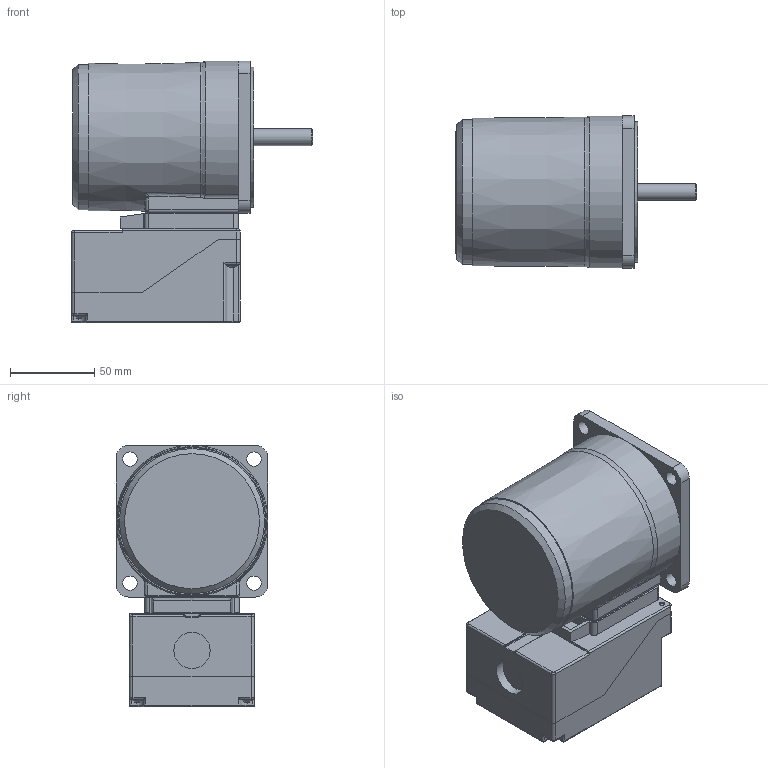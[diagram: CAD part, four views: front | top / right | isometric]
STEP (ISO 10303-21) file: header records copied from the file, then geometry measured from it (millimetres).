
FILE_DESCRIPTION(/* description */ (''),/* implementation_level */ '2;1');
FILE_NAME(/* name */ 'E:\도면작업\2016\0704) 미주향 SG 도면\3D MOTOR\TERMINAL BOX TYPE\INDUCTION TERMINAL BOX\SG9I40S_-T2.stp',/* time_stamp */ '2017-01-23T18:44:06+09:00',/* author */ ('jy-jung'),/* organization */ (''),/* preprocessor_version */ 'ST-DEVELOPER v15.6',/* originating_system */ 'Autodesk Inventor 2015',/* authorisation */ '');
FILE_SCHEMA (('AUTOMOTIVE_DESIGN { 1 0 10303 214 3 1 1 }'));
Length unit declared in the file: millimetre
Products named in the file (1): 부품1
Bounding box: 142.9 x 90 x 155 mm (x, y, z)
Volume: 789906.8 mm3; surface area: 130411.3 mm2
Topology: 1 solids, 5 shells, 841 faces, 2233 edges, 1424 vertices
Faces by surface type: plane 437, cylinder 291, bspline 51, torus 30, cone 20, sphere 12
Full cylindrical faces by diameter (mm): 2.5 x4, 3 x4, 3.2 x3, 3.4 x1, 4.2 x1, 4.5 x8, 5.5 x8, 6.9 x4, 8.5 x4, 10 x1, 21.5 x1, 40 x1, 83 x1, 86 x1
Entity records: 28121 total; most frequent: CARTESIAN_POINT 6704, DIRECTION 4258, ORIENTED_EDGE 4236, EDGE_CURVE 2118, AXIS2_PLACEMENT_3D 1499, VERTEX_POINT 1407, LINE 1260, VECTOR 1260
